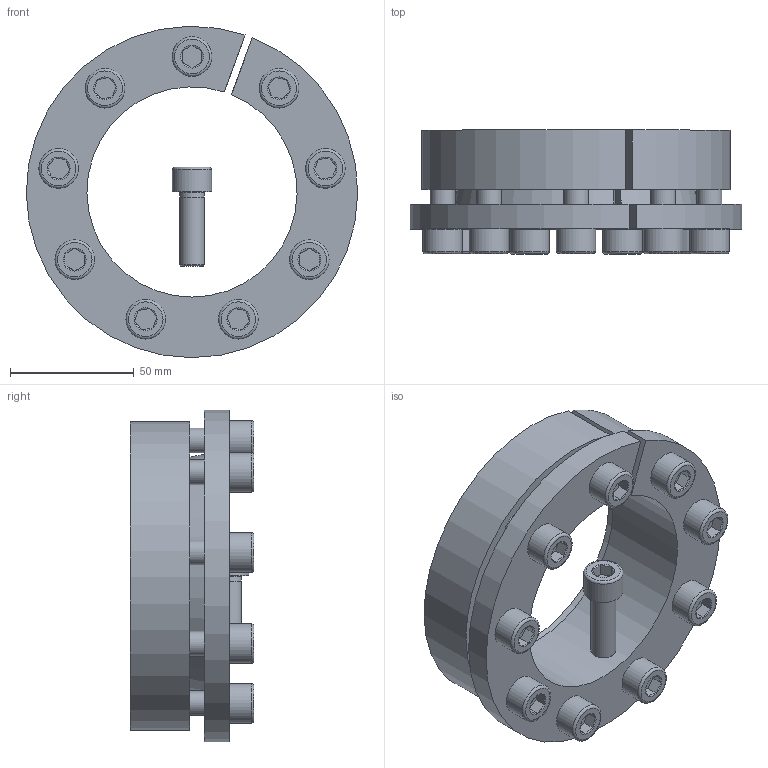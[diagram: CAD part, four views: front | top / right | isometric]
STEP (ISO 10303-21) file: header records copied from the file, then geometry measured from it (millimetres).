
FILE_DESCRIPTION( ( 'Unknown' ), '1' );
FILE_NAME( 'C:/Dokumente und Einstellungen/Sven/Desktop/homepage/cad - homepage/KBS16/KBS 16 - 85 x 125.stp', 'Unknown', ( 'Unknown' ), ( 'Unknown' ), 'XStep 1.0', 'Unknown', ' ' );
FILE_SCHEMA( ( 'automotive_design' ) );
Length unit declared in the file: millimetre
Products named in the file (3): Assem1; KBS 16 - 85 x 125; ISO EN DIN 4762 M10x30
Bounding box: 133.99 x 50 x 133.99 mm (x, y, z)
Volume: 492892.2 mm3; surface area: 141258.1 mm2
Topology: 12 solids, 12 shells, 310 faces, 616 edges, 370 vertices
Faces by surface type: plane 134, cylinder 82, cone 74, torus 20
Full cylindrical faces by diameter (mm): 9 x10, 10 x56, 16 x10
Entity records: 1848 total; most frequent: CARTESIAN_POINT 304, DIRECTION 286, ORIENTED_EDGE 202, AXIS2_PLACEMENT_3D 129, EDGE_LOOP 120, EDGE_CURVE 101, FACE_OUTER_BOUND 79, VERTEX_POINT 79
